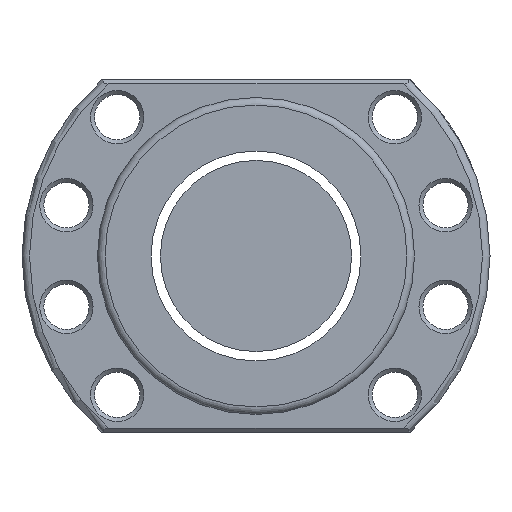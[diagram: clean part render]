
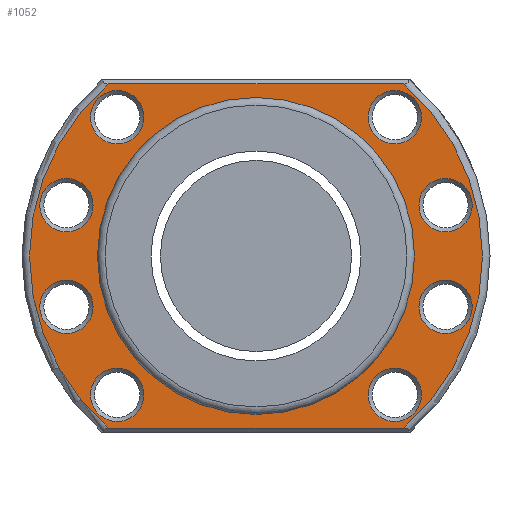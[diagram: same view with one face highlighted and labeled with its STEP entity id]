
A CAD part, left-side view. The second image highlights one B-rep face of the part: STEP entity #1052.
In plain terms, the highlighted planar face has unit normal (-1, 0, 0).
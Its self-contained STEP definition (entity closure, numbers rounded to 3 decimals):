
#1 = CARTESIAN_POINT ( 'NONE',  ( -48., 27.577, 27.577 ) ) ;
#33 = AXIS2_PLACEMENT_3D ( 'NONE', #237, #1396, #1320 ) ;
#80 = EDGE_CURVE ( 'NONE', #1972, #1972, #1333, .T. ) ;
#183 = FACE_BOUND ( 'NONE', #262, .T. ) ;
#189 = EDGE_LOOP ( 'NONE', ( #1876 ) ) ;
#213 = VERTEX_POINT ( 'NONE', #1584 ) ;
#224 = DIRECTION ( 'NONE',  ( 1., 0., 0. ) ) ;
#237 = CARTESIAN_POINT ( 'NONE',  ( -48., 0., 0. ) ) ;
#260 = CIRCLE ( 'NONE', #707, 5.3 ) ;
#262 = EDGE_LOOP ( 'NONE', ( #790 ) ) ;
#272 = ORIENTED_EDGE ( 'NONE', *, *, #3040, .T. ) ;
#288 = EDGE_LOOP ( 'NONE', ( #3133 ) ) ;
#348 = EDGE_LOOP ( 'NONE', ( #2301 ) ) ;
#355 = DIRECTION ( 'NONE',  ( 0., 0., 1. ) ) ;
#370 = FACE_BOUND ( 'NONE', #2839, .T. ) ;
#408 = EDGE_CURVE ( 'NONE', #2873, #2873, #1042, .T. ) ;
#436 = VERTEX_POINT ( 'NONE', #1523 ) ;
#437 = CARTESIAN_POINT ( 'NONE',  ( -48., -27.577, -27.577 ) ) ;
#452 = EDGE_CURVE ( 'NONE', #3168, #3168, #1645, .T. ) ;
#473 = VERTEX_POINT ( 'NONE', #2315 ) ;
#474 = DIRECTION ( 'NONE',  ( 0., 0., 1. ) ) ;
#480 = ORIENTED_EDGE ( 'NONE', *, *, #505, .T. ) ;
#505 = EDGE_CURVE ( 'NONE', #2163, #213, #2410, .T. ) ;
#543 = ORIENTED_EDGE ( 'NONE', *, *, #452, .T. ) ;
#546 = EDGE_CURVE ( 'NONE', #213, #1369, #1968, .T. ) ;
#587 = CIRCLE ( 'NONE', #33, 31.5 ) ;
#707 = AXIS2_PLACEMENT_3D ( 'NONE', #1605, #2655, #1823 ) ;
#719 = VERTEX_POINT ( 'NONE', #1800 ) ;
#790 = ORIENTED_EDGE ( 'NONE', *, *, #1343, .T. ) ;
#835 = ORIENTED_EDGE ( 'NONE', *, *, #408, .T. ) ;
#838 = DIRECTION ( 'NONE',  ( 1., 0., 0. ) ) ;
#901 = AXIS2_PLACEMENT_3D ( 'NONE', #1254, #1470, #2537 ) ;
#904 = EDGE_LOOP ( 'NONE', ( #2924, #480, #2810, #1283 ) ) ;
#950 = EDGE_CURVE ( 'NONE', #1503, #1503, #2424, .T. ) ;
#1019 = CIRCLE ( 'NONE', #1958, 5.3 ) ;
#1031 = DIRECTION ( 'NONE',  ( 0., 0., 1. ) ) ;
#1042 = CIRCLE ( 'NONE', #2250, 5.3 ) ;
#1052 = ADVANCED_FACE ( 'NONE', ( #2587, #1235, #3106, #2765, #370, #1487, #2843, #1731, #183, #3070 ), #1451, .T. ) ;
#1074 = CARTESIAN_POINT ( 'NONE',  ( -48., 27.577, -27.577 ) ) ;
#1080 = CIRCLE ( 'NONE', #2733, 45. ) ;
#1087 = CARTESIAN_POINT ( 'NONE',  ( -48., 0., 0. ) ) ;
#1167 = LINE ( 'NONE', #2759, #2184 ) ;
#1235 = FACE_BOUND ( 'NONE', #3002, .T. ) ;
#1249 = DIRECTION ( 'NONE',  ( -1., 0., 0. ) ) ;
#1254 = CARTESIAN_POINT ( 'NONE',  ( -48., 46.5, 0. ) ) ;
#1270 = VERTEX_POINT ( 'NONE', #2585 ) ;
#1283 = ORIENTED_EDGE ( 'NONE', *, *, #2796, .T. ) ;
#1320 = DIRECTION ( 'NONE',  ( 0., 0., -1. ) ) ;
#1333 = CIRCLE ( 'NONE', #3157, 5.3 ) ;
#1343 = EDGE_CURVE ( 'NONE', #473, #473, #587, .T. ) ;
#1359 = DIRECTION ( 'NONE',  ( -1., 0., 0. ) ) ;
#1369 = VERTEX_POINT ( 'NONE', #2960 ) ;
#1372 = DIRECTION ( 'NONE',  ( 0., 0., 1. ) ) ;
#1378 = DIRECTION ( 'NONE',  ( 1., 0., 0. ) ) ;
#1396 = DIRECTION ( 'NONE',  ( 1., 0., 0. ) ) ;
#1398 = CARTESIAN_POINT ( 'NONE',  ( -48., -37.671, -4.794 ) ) ;
#1451 = PLANE ( 'NONE',  #901 ) ;
#1470 = DIRECTION ( 'NONE',  ( -1., 0., 0. ) ) ;
#1487 = FACE_BOUND ( 'NONE', #3399, .T. ) ;
#1503 = VERTEX_POINT ( 'NONE', #2857 ) ;
#1509 = CARTESIAN_POINT ( 'NONE',  ( -48., -37.671, -10.094 ) ) ;
#1523 = CARTESIAN_POINT ( 'NONE',  ( -48., -27.577, 32.877 ) ) ;
#1569 = DIRECTION ( 'NONE',  ( 0., 0., 1. ) ) ;
#1582 = DIRECTION ( 'NONE',  ( 1., 0., 0. ) ) ;
#1584 = CARTESIAN_POINT ( 'NONE',  ( -48., -29.247, -34.2 ) ) ;
#1605 = CARTESIAN_POINT ( 'NONE',  ( -48., 37.671, -10.094 ) ) ;
#1645 = CIRCLE ( 'NONE', #2866, 5.3 ) ;
#1677 = CIRCLE ( 'NONE', #1795, 5.3 ) ;
#1685 = DIRECTION ( 'NONE',  ( 0., 1., 0. ) ) ;
#1708 = CARTESIAN_POINT ( 'NONE',  ( -48., 27.577, -22.277 ) ) ;
#1731 = FACE_BOUND ( 'NONE', #348, .T. ) ;
#1745 = CARTESIAN_POINT ( 'NONE',  ( -48., 0., 0. ) ) ;
#1795 = AXIS2_PLACEMENT_3D ( 'NONE', #1509, #1977, #355 ) ;
#1800 = CARTESIAN_POINT ( 'NONE',  ( -48., -27.577, -22.277 ) ) ;
#1823 = DIRECTION ( 'NONE',  ( 0., 0., 1. ) ) ;
#1830 = CARTESIAN_POINT ( 'NONE',  ( -48., 46.5, -34.2 ) ) ;
#1863 = DIRECTION ( 'NONE',  ( 0., -1., 0. ) ) ;
#1876 = ORIENTED_EDGE ( 'NONE', *, *, #950, .T. ) ;
#1958 = AXIS2_PLACEMENT_3D ( 'NONE', #437, #2082, #474 ) ;
#1968 = CIRCLE ( 'NONE', #2692, 45. ) ;
#1972 = VERTEX_POINT ( 'NONE', #1708 ) ;
#1974 = DIRECTION ( 'NONE',  ( 1., 0., 0. ) ) ;
#1977 = DIRECTION ( 'NONE',  ( 1., 0., 0. ) ) ;
#2082 = DIRECTION ( 'NONE',  ( 1., 0., 0. ) ) ;
#2120 = CARTESIAN_POINT ( 'NONE',  ( -48., 37.671, 15.394 ) ) ;
#2163 = VERTEX_POINT ( 'NONE', #3418 ) ;
#2182 = VERTEX_POINT ( 'NONE', #1398 ) ;
#2184 = VECTOR ( 'NONE', #1685, 1000. ) ;
#2224 = AXIS2_PLACEMENT_3D ( 'NONE', #3139, #224, #3205 ) ;
#2246 = CARTESIAN_POINT ( 'NONE',  ( -48., 29.247, 34.2 ) ) ;
#2250 = AXIS2_PLACEMENT_3D ( 'NONE', #2886, #1582, #2423 ) ;
#2301 = ORIENTED_EDGE ( 'NONE', *, *, #80, .T. ) ;
#2315 = CARTESIAN_POINT ( 'NONE',  ( -48., 0., -31.5 ) ) ;
#2377 = AXIS2_PLACEMENT_3D ( 'NONE', #3289, #1974, #1372 ) ;
#2395 = DIRECTION ( 'NONE',  ( 0., 0., 1. ) ) ;
#2410 = LINE ( 'NONE', #1830, #3295 ) ;
#2423 = DIRECTION ( 'NONE',  ( 0., 0., 1. ) ) ;
#2424 = CIRCLE ( 'NONE', #2377, 5.3 ) ;
#2434 = EDGE_CURVE ( 'NONE', #436, #436, #2721, .T. ) ;
#2529 = EDGE_CURVE ( 'NONE', #1270, #1270, #260, .T. ) ;
#2537 = DIRECTION ( 'NONE',  ( 0., 0., 1. ) ) ;
#2568 = CARTESIAN_POINT ( 'NONE',  ( -48., 27.577, 32.877 ) ) ;
#2582 = ORIENTED_EDGE ( 'NONE', *, *, #2434, .T. ) ;
#2585 = CARTESIAN_POINT ( 'NONE',  ( -48., 37.671, -4.794 ) ) ;
#2587 = FACE_BOUND ( 'NONE', #3020, .T. ) ;
#2655 = DIRECTION ( 'NONE',  ( 1., 0., 0. ) ) ;
#2692 = AXIS2_PLACEMENT_3D ( 'NONE', #1087, #1359, #2395 ) ;
#2721 = CIRCLE ( 'NONE', #2224, 5.3 ) ;
#2733 = AXIS2_PLACEMENT_3D ( 'NONE', #1745, #1249, #3039 ) ;
#2735 = EDGE_CURVE ( 'NONE', #2881, #2163, #1080, .T. ) ;
#2759 = CARTESIAN_POINT ( 'NONE',  ( -48., 46.5, 34.2 ) ) ;
#2765 = FACE_BOUND ( 'NONE', #3246, .T. ) ;
#2796 = EDGE_CURVE ( 'NONE', #1369, #2881, #1167, .T. ) ;
#2810 = ORIENTED_EDGE ( 'NONE', *, *, #546, .T. ) ;
#2839 = EDGE_LOOP ( 'NONE', ( #543 ) ) ;
#2843 = FACE_BOUND ( 'NONE', #288, .T. ) ;
#2857 = CARTESIAN_POINT ( 'NONE',  ( -48., -37.671, 15.394 ) ) ;
#2866 = AXIS2_PLACEMENT_3D ( 'NONE', #1, #1378, #1031 ) ;
#2873 = VERTEX_POINT ( 'NONE', #2120 ) ;
#2881 = VERTEX_POINT ( 'NONE', #2246 ) ;
#2886 = CARTESIAN_POINT ( 'NONE',  ( -48., 37.671, 10.094 ) ) ;
#2924 = ORIENTED_EDGE ( 'NONE', *, *, #2735, .T. ) ;
#2930 = EDGE_CURVE ( 'NONE', #719, #719, #1019, .T. ) ;
#2960 = CARTESIAN_POINT ( 'NONE',  ( -48., -29.247, 34.2 ) ) ;
#3002 = EDGE_LOOP ( 'NONE', ( #272 ) ) ;
#3020 = EDGE_LOOP ( 'NONE', ( #3433 ) ) ;
#3039 = DIRECTION ( 'NONE',  ( 0., 0., 1. ) ) ;
#3040 = EDGE_CURVE ( 'NONE', #2182, #2182, #1677, .T. ) ;
#3070 = FACE_OUTER_BOUND ( 'NONE', #904, .T. ) ;
#3106 = FACE_BOUND ( 'NONE', #189, .T. ) ;
#3133 = ORIENTED_EDGE ( 'NONE', *, *, #2529, .T. ) ;
#3139 = CARTESIAN_POINT ( 'NONE',  ( -48., -27.577, 27.577 ) ) ;
#3157 = AXIS2_PLACEMENT_3D ( 'NONE', #1074, #838, #1569 ) ;
#3168 = VERTEX_POINT ( 'NONE', #2568 ) ;
#3205 = DIRECTION ( 'NONE',  ( 0., 0., 1. ) ) ;
#3246 = EDGE_LOOP ( 'NONE', ( #2582 ) ) ;
#3289 = CARTESIAN_POINT ( 'NONE',  ( -48., -37.671, 10.094 ) ) ;
#3295 = VECTOR ( 'NONE', #1863, 1000. ) ;
#3399 = EDGE_LOOP ( 'NONE', ( #835 ) ) ;
#3418 = CARTESIAN_POINT ( 'NONE',  ( -48., 29.247, -34.2 ) ) ;
#3433 = ORIENTED_EDGE ( 'NONE', *, *, #2930, .T. ) ;
